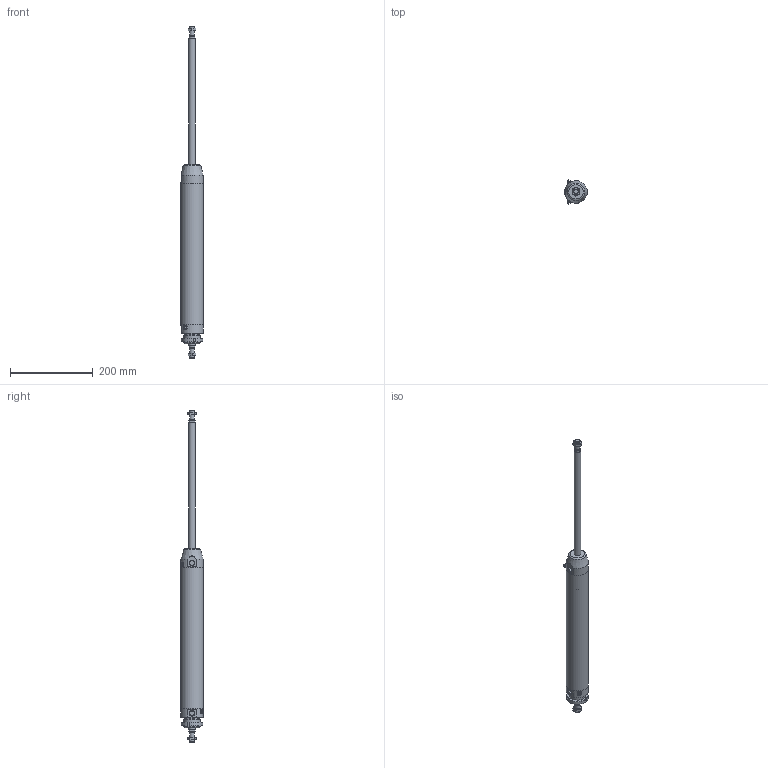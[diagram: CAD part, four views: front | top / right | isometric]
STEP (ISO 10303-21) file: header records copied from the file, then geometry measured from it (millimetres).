
FILE_DESCRIPTION(/* description */ (''),/* implementation_level */ '2;1');
FILE_NAME(/* name */ 'I:\Area Tecnica\Documenti\A-Manieri\_Inventor\12X\12X#T_###_####_#_#\12XDT_050_0300_#_#.stp',/* time_stamp */ '2015-05-13T09:09:23+02:00',/* author */ ('maniean1'),/* organization */ ('Pneumax S.p.A.'),/* preprocessor_version */ 'ST-DEVELOPER v15.2',/* originating_system */ 'Autodesk Inventor 2014',/* authorisation */ '');
FILE_SCHEMA (('AUTOMOTIVE_DESIGN { 1 0 10303 214 3 1 1 }'));
Length unit declared in the file: millimetre
Products named in the file (7): C1250_619-0300; 12X50_606; SP12X50_0300; 12X_50_11; 12X50_614; G12X_050_05; 12XDT_050_0300_#_#
Bounding box: 54 x 57.75 x 802 mm (x, y, z)
Volume: 503122.8 mm3; surface area: 192895.3 mm2
Topology: 7 solids, 7 shells, 125 faces, 280 edges, 180 vertices
Faces by surface type: plane 66, cylinder 30, cone 26, torus 3
Full cylindrical faces by diameter (mm): 5 x2, 10.2 x2, 11 x2, 11.4 x2, 12 x4, 14 x2, 15.6 x2, 16 x2, 38.2 x1, 40 x3, 50 x2, 54 x3
Entity records: 3058 total; most frequent: CARTESIAN_POINT 614, DIRECTION 513, ORIENTED_EDGE 402, AXIS2_PLACEMENT_3D 219, EDGE_CURVE 201, EDGE_LOOP 178, VERTEX_POINT 153, ADVANCED_FACE 114
